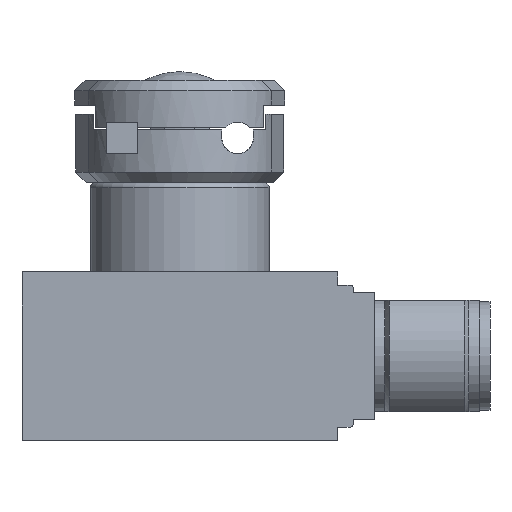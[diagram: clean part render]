
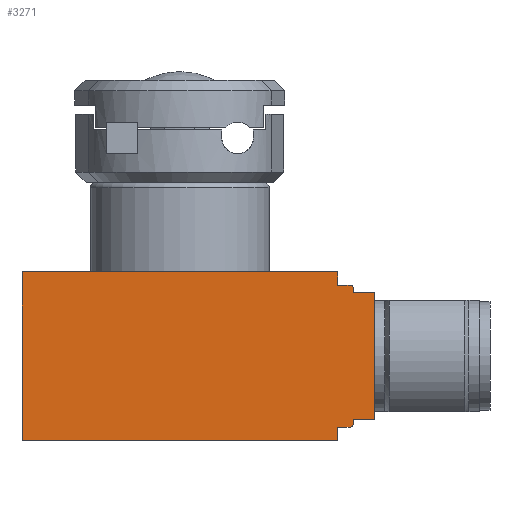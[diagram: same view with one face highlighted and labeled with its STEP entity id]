
A CAD part, front view. The second image highlights one B-rep face of the part: STEP entity #3271.
In plain terms, the highlighted planar face has unit normal (0, -1, 0) as drawn and (0, 0, -1) by its records, which use the part's own axes.
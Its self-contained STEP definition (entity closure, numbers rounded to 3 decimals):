
#42=LINE('',#4759,#384);
#50=LINE('',#4774,#392);
#82=LINE('',#4877,#424);
#98=LINE('',#4922,#440);
#114=LINE('',#4955,#456);
#115=LINE('',#4958,#457);
#116=LINE('',#4962,#458);
#117=LINE('',#4964,#459);
#118=LINE('',#4966,#460);
#119=LINE('',#4968,#461);
#120=LINE('',#4970,#462);
#121=LINE('',#4973,#463);
#384=VECTOR('',#3801,1.25);
#392=VECTOR('',#3809,1.25);
#424=VECTOR('',#3913,30.);
#440=VECTOR('',#3957,16.);
#456=VECTOR('',#3995,30.);
#457=VECTOR('',#3998,1.2);
#458=VECTOR('',#4001,0.45);
#459=VECTOR('',#4002,2.);
#460=VECTOR('',#4003,12.);
#461=VECTOR('',#4004,2.);
#462=VECTOR('',#4005,0.45);
#463=VECTOR('',#4008,1.2);
#756=PLANE('',#3512);
#945=FACE_OUTER_BOUND('',#1150,.T.);
#1150=EDGE_LOOP('',(#2431,#2432,#2433,#2434,#2435,#2436,#2437,#2438,#2439,
#2440,#2441,#2442,#2443,#2444));
#1346=CIRCLE('',#3513,0.3);
#1347=CIRCLE('',#3514,0.3);
#1434=VERTEX_POINT('',#4751);
#1437=VERTEX_POINT('',#4756);
#1438=VERTEX_POINT('',#4758);
#1445=VERTEX_POINT('',#4772);
#1480=VERTEX_POINT('',#4875);
#1495=VERTEX_POINT('',#4920);
#1502=VERTEX_POINT('',#4957);
#1503=VERTEX_POINT('',#4959);
#1504=VERTEX_POINT('',#4961);
#1505=VERTEX_POINT('',#4963);
#1506=VERTEX_POINT('',#4965);
#1507=VERTEX_POINT('',#4967);
#1508=VERTEX_POINT('',#4969);
#1509=VERTEX_POINT('',#4971);
#1753=EDGE_CURVE('',#1438,#1437,#42,.T.);
#1761=EDGE_CURVE('',#1434,#1445,#50,.T.);
#1810=EDGE_CURVE('',#1445,#1480,#82,.T.);
#1832=EDGE_CURVE('',#1495,#1480,#98,.T.);
#1849=EDGE_CURVE('',#1495,#1438,#114,.T.);
#1850=EDGE_CURVE('',#1437,#1502,#115,.T.);
#1851=EDGE_CURVE('',#1502,#1503,#1346,.T.);
#1852=EDGE_CURVE('',#1503,#1504,#116,.T.);
#1853=EDGE_CURVE('',#1504,#1505,#117,.T.);
#1854=EDGE_CURVE('',#1506,#1505,#118,.T.);
#1855=EDGE_CURVE('',#1507,#1506,#119,.T.);
#1856=EDGE_CURVE('',#1508,#1507,#120,.T.);
#1857=EDGE_CURVE('',#1509,#1508,#1347,.T.);
#1858=EDGE_CURVE('',#1434,#1509,#121,.T.);
#2431=ORIENTED_EDGE('',*,*,#1850,.T.);
#2432=ORIENTED_EDGE('',*,*,#1851,.T.);
#2433=ORIENTED_EDGE('',*,*,#1852,.T.);
#2434=ORIENTED_EDGE('',*,*,#1853,.T.);
#2435=ORIENTED_EDGE('',*,*,#1854,.F.);
#2436=ORIENTED_EDGE('',*,*,#1855,.F.);
#2437=ORIENTED_EDGE('',*,*,#1856,.F.);
#2438=ORIENTED_EDGE('',*,*,#1857,.F.);
#2439=ORIENTED_EDGE('',*,*,#1858,.F.);
#2440=ORIENTED_EDGE('',*,*,#1761,.T.);
#2441=ORIENTED_EDGE('',*,*,#1810,.T.);
#2442=ORIENTED_EDGE('',*,*,#1832,.F.);
#2443=ORIENTED_EDGE('',*,*,#1849,.T.);
#2444=ORIENTED_EDGE('',*,*,#1753,.T.);
#3271=ADVANCED_FACE('',(#945),#756,.F.);
#3512=AXIS2_PLACEMENT_3D('',#4956,#3996,#3997);
#3513=AXIS2_PLACEMENT_3D('',#4960,#3999,#4000);
#3514=AXIS2_PLACEMENT_3D('',#4972,#4006,#4007);
#3801=DIRECTION('',(0.,-1.,0.));
#3809=DIRECTION('',(0.,-1.,0.));
#3913=DIRECTION('',(-1.,0.,0.));
#3957=DIRECTION('',(0.,-1.,0.));
#3995=DIRECTION('',(1.,0.,0.));
#3996=DIRECTION('center_axis',(0.,0.,1.));
#3997=DIRECTION('ref_axis',(1.,0.,0.));
#3998=DIRECTION('',(1.,0.,0.));
#3999=DIRECTION('center_axis',(0.,0.,-1.));
#4000=DIRECTION('ref_axis',(0.707,0.707,0.));
#4001=DIRECTION('',(0.,-1.,0.));
#4002=DIRECTION('',(1.,0.,0.));
#4003=DIRECTION('',(0.,1.,0.));
#4004=DIRECTION('',(1.,0.,0.));
#4005=DIRECTION('',(0.,1.,0.));
#4006=DIRECTION('center_axis',(0.,0.,1.));
#4007=DIRECTION('ref_axis',(0.707,-0.707,0.));
#4008=DIRECTION('',(1.,0.,0.));
#4751=CARTESIAN_POINT('',(15.,-14.75,-43.));
#4756=CARTESIAN_POINT('',(15.,-1.25,-43.));
#4758=CARTESIAN_POINT('',(15.,0.,-43.));
#4759=CARTESIAN_POINT('',(15.,0.,-43.));
#4772=CARTESIAN_POINT('',(15.,-16.,-43.));
#4774=CARTESIAN_POINT('',(15.,-14.75,-43.));
#4875=CARTESIAN_POINT('',(-15.,-16.,-43.));
#4877=CARTESIAN_POINT('',(15.,-16.,-43.));
#4920=CARTESIAN_POINT('',(-15.,0.,-43.));
#4922=CARTESIAN_POINT('',(-15.,0.,-43.));
#4955=CARTESIAN_POINT('',(-15.,0.,-43.));
#4956=CARTESIAN_POINT('Origin',(1.75,-16.,-43.));
#4957=CARTESIAN_POINT('',(16.2,-1.25,-43.));
#4958=CARTESIAN_POINT('',(15.,-1.25,-43.));
#4959=CARTESIAN_POINT('',(16.5,-1.55,-43.));
#4960=CARTESIAN_POINT('Origin',(16.2,-1.55,-43.));
#4961=CARTESIAN_POINT('',(16.5,-2.,-43.));
#4962=CARTESIAN_POINT('',(16.5,-1.55,-43.));
#4963=CARTESIAN_POINT('',(18.5,-2.,-43.));
#4964=CARTESIAN_POINT('',(16.5,-2.,-43.));
#4965=CARTESIAN_POINT('',(18.5,-14.,-43.));
#4966=CARTESIAN_POINT('',(18.5,-14.,-43.));
#4967=CARTESIAN_POINT('',(16.5,-14.,-43.));
#4968=CARTESIAN_POINT('',(16.5,-14.,-43.));
#4969=CARTESIAN_POINT('',(16.5,-14.45,-43.));
#4970=CARTESIAN_POINT('',(16.5,-14.45,-43.));
#4971=CARTESIAN_POINT('',(16.2,-14.75,-43.));
#4972=CARTESIAN_POINT('Origin',(16.2,-14.45,-43.));
#4973=CARTESIAN_POINT('',(15.,-14.75,-43.));
